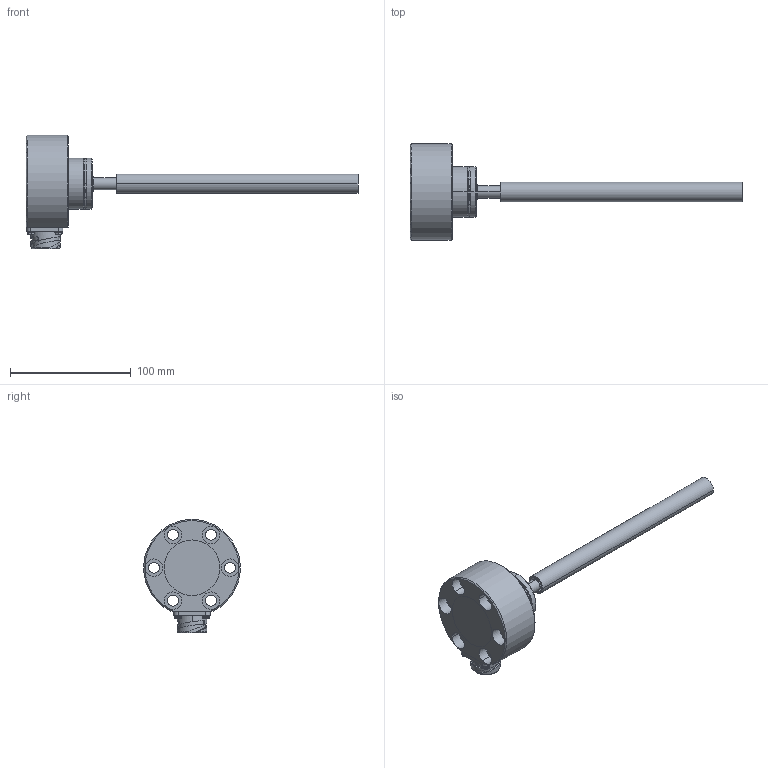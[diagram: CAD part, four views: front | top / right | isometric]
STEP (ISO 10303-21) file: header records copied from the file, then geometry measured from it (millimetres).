
FILE_DESCRIPTION((''),'2;1');
FILE_NAME('EDS-160-F-SRB_MIT_ROHR_ASM_ASM','2007-12-12T',('11000065'),(''),'PRO/ENGINEER BY PARAMETRIC TECHNOLOGY CORPORATION, 2007160','PRO/ENGINEER BY PARAMETRIC TECHNOLOGY CORPORATION, 2007160','');
FILE_SCHEMA(('AUTOMOTIVE_DESIGN { 1 2 10303 214 0 1 1 1 }'));
Length unit declared in the file: millimetre
Products named in the file (4): EDS-160-F; MESSROHR; O-RING-38X2; EDS-160-F-SRB_MIT_ROHR_ASM_ASM
Assembly tree (3 placements, depth 2):
  EDS-160-F-SRB_MIT_ROHR_ASM_ASM
    EDS-160-F
    MESSROHR
    O-RING-38X2
Bounding box: 275 x 79.87 x 93.7 mm (x, y, z)
Volume: 216364.9 mm3; surface area: 56126.2 mm2
Topology: 3 solids, 7 shells, 270 faces, 632 edges, 412 vertices
Faces by surface type: cylinder 113, plane 88, cone 39, bspline 16, torus 12, sphere 2
Entity records: 9124 total; most frequent: CARTESIAN_POINT 2587, DIRECTION 1330, ORIENTED_EDGE 1260, EDGE_CURVE 630, AXIS2_PLACEMENT_3D 558, VERTEX_POINT 412, EDGE_LOOP 324, CIRCLE 297
